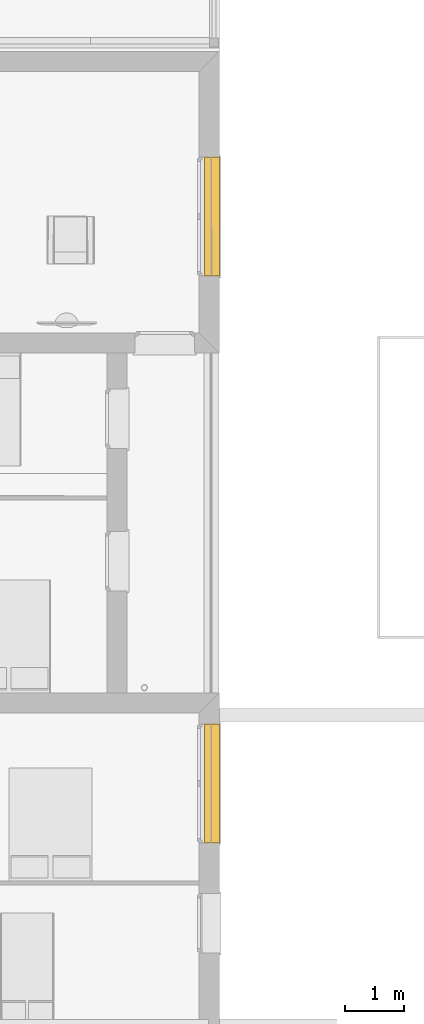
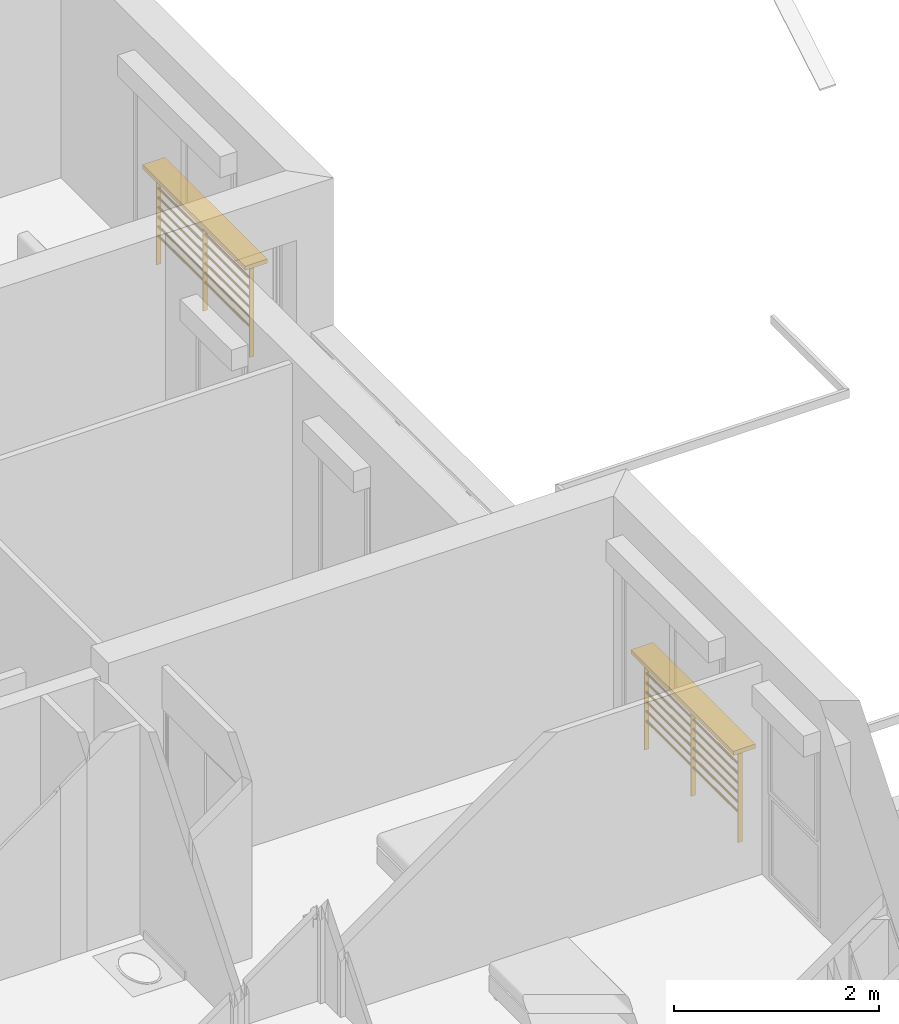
# One storey, part 118 of 171: 2 railings.
"""IFC2X3 building model written with IfcOpenShell, lengths in millimetres."""

from ifc_helpers import new_model, entity, si_unit, converted_unit, derived_unit, money_unit, direction, frame, origin_with_axes, place, context, subcontext, project, spatial, faceted_brep, source, transform, mapped, type_object, element, save


model = new_model("IFC2X3")

# Units and contexts
model_context = context("Model", 3, precision=0.01, world=origin_with_axes(), true_north=direction((0.0, 1.0)))
body_context = subcontext(model_context, "Body", "Model", "MODEL_VIEW")
ifc_project = project(units=[si_unit("LENGTHUNIT", "METRE", prefix="MILLI"), si_unit("AREAUNIT", "SQUARE_METRE"), si_unit("VOLUMEUNIT", "CUBIC_METRE"), converted_unit("PLANEANGLEUNIT", "DEGREE", entity("IfcPlaneAngleMeasure", 0.0174532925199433), si_unit("PLANEANGLEUNIT", "RADIAN"), dimensions=[0, 0, 0, 0, 0, 0, 0]), money_unit("USD"), converted_unit("TIMEUNIT", "Year", entity("IfcTimeMeasure", 31557600.0), si_unit("TIMEUNIT", "SECOND"), dimensions=[0, 0, 1, 0, 0, 0, 0]), si_unit("MASSUNIT", "GRAM", prefix="KILO"), si_unit("THERMODYNAMICTEMPERATUREUNIT", "DEGREE_CELSIUS"), si_unit("LUMINOUSINTENSITYUNIT", "LUMEN"), si_unit("ENERGYUNIT", "JOULE", prefix="MEGA"), derived_unit("THERMALCONDUCTANCEUNIT", [(si_unit("POWERUNIT", "WATT"), 1), (si_unit("LENGTHUNIT", "METRE"), -1), (si_unit("THERMODYNAMICTEMPERATUREUNIT", "KELVIN"), -1)]), derived_unit("SPECIFICHEATCAPACITYUNIT", [(si_unit("ENERGYUNIT", "JOULE"), 1), (si_unit("MASSUNIT", "GRAM", prefix="KILO"), -1), (si_unit("THERMODYNAMICTEMPERATUREUNIT", "KELVIN"), -1)]), derived_unit("MASSDENSITYUNIT", [(si_unit("MASSUNIT", "GRAM", prefix="KILO"), 1), (si_unit("VOLUMEUNIT", "CUBIC_METRE"), -1)])], contexts=[model_context])

# Site, building, storey
site_placement = place(None, origin_with_axes())
site = spatial("IfcSite", under=ifc_project, at=site_placement, Name="Site", CompositionType="ELEMENT")
building_placement = place(site_placement, origin_with_axes())
building = spatial("IfcBuilding", under=site, at=building_placement, Name="Bâtiment", CompositionType="ELEMENT")
storey_placement = place(building_placement, frame((0.0, 0.0, 3000.0), z_axis=(0.0, 0.0, 1.0), x_axis=(1.0, 0.0, 0.0)))
storey = spatial("IfcBuildingStorey", under=building, at=storey_placement, Name="rdc", CompositionType="ELEMENT", Elevation=3000.0)

# Railings
railing_type = type_object("IfcRailingType", Name="Cadre avec câble 01 20", PredefinedType="NOTDEFINED")
shared_shape = source(origin_with_axes(), body_context, "Body", "Brep", [
    faceted_brep([(0.0, 125.0, 950.0), (0.0, 125.0, 1000.0), (0.0, -125.0, 1000.0), (0.0, -125.0, 950.0), (-1999.999999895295, 125.0, 950.0), (-1999.999999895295, 125.0, 1000.0), (-1999.999999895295, -125.0, 1000.0), (-1999.999999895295, -125.0, 950.0)], [[[0, 1, 2, 3]], [[4, 5, 1, 0]], [[1, 5, 6, 2]], [[3, 2, 6, 7]], [[0, 3, 7, 4]], [[7, 6, 5, 4]]]),
    faceted_brep([(-84.99999999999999, -25.0, -176.0), (-84.99999999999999, -25.0, 950.0), (-95.0, -25.0, 950.0), (-95.0, -25.0, -176.0), (-84.99999999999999, 25.0, -176.0), (-84.99999999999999, 25.0, 950.0), (-95.0, 25.0, 950.0), (-95.0, 25.0, -176.0)], [[[0, 1, 2, 3]], [[4, 5, 1, 0]], [[1, 5, 6, 2]], [[3, 2, 6, 7]], [[0, 3, 7, 4]], [[7, 6, 5, 4]]]),
    faceted_brep([(-994.9999999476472, -25.0, -176.0), (-994.9999999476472, -25.0, 950.0), (-1004.999999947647, -25.0, 950.0), (-1004.999999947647, -25.0, -176.0), (-994.9999999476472, 25.0, -176.0), (-994.9999999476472, 25.0, 950.0), (-1004.999999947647, 25.0, 950.0), (-1004.999999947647, 25.0, -176.0)], [[[0, 1, 2, 3]], [[4, 5, 1, 0]], [[1, 5, 6, 2]], [[3, 2, 6, 7]], [[0, 3, 7, 4]], [[7, 6, 5, 4]]]),
    faceted_brep([(-1904.999999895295, -25.0, -176.0), (-1904.999999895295, -25.0, 950.0), (-1914.999999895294, -25.0, 950.0), (-1914.999999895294, -25.0, -176.0), (-1904.999999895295, 25.0, -176.0), (-1904.999999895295, 25.0, 950.0), (-1914.999999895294, 25.0, 950.0), (-1914.999999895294, 25.0, -176.0)], [[[0, 1, 2, 3]], [[4, 5, 1, 0]], [[1, 5, 6, 2]], [[3, 2, 6, 7]], [[0, 3, 7, 4]], [[7, 6, 5, 4]]]),
    faceted_brep([(-994.9999999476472, 10.82531754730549, 168.7500000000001), (-95.0, 10.82531754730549, 168.75), (-95.0, 12.5, 162.5), (-994.9999999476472, 12.5, 162.5000000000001), (-994.9999999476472, 6.250000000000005, 173.3253175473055), (-95.0, 6.250000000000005, 173.3253175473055), (-95.0, 0.0, 175.0), (-95.0, -6.249999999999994, 173.3253175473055), (-95.0, -10.82531754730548, 168.75), (-95.0, -12.5, 162.5), (-95.0, -10.82531754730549, 156.25), (-95.0, -6.250000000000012, 151.6746824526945), (-95.0, 0.0, 150.0), (-95.0, 6.249999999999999, 151.6746824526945), (-95.0, 10.82531754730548, 156.25), (-994.9999999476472, 10.82531754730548, 156.2500000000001), (-994.9999999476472, 6.249999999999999, 151.6746824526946), (-994.9999999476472, 0.0, 150.0000000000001), (-994.9999999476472, -6.250000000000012, 151.6746824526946), (-994.9999999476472, -10.82531754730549, 156.2500000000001), (-994.9999999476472, -12.5, 162.5000000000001), (-994.9999999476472, -10.82531754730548, 168.7500000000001), (-994.9999999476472, -6.249999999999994, 173.3253175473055), (-994.9999999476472, 0.0, 175.0000000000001)], [[[0, 1, 2, 3]], [[4, 5, 1, 0]], [[1, 5, 6, 7, 8, 9, 10, 11, 12, 13, 14, 2]], [[3, 2, 14, 15]], [[15, 16, 17, 18, 19, 20, 21, 22, 23, 4, 0, 3]], [[23, 6, 5, 4]], [[22, 7, 6, 23]], [[21, 8, 7, 22]], [[20, 9, 8, 21]], [[19, 10, 9, 20]], [[18, 11, 10, 19]], [[17, 12, 11, 18]], [[16, 13, 12, 17]], [[15, 14, 13, 16]]]),
    faceted_brep([(-1004.999999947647, 10.82531754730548, 156.2500000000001), (-1904.999999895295, 10.82531754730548, 156.2500000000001), (-1904.999999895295, 12.5, 162.5000000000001), (-1004.999999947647, 12.5, 162.5000000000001), (-1004.999999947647, 6.249999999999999, 151.6746824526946), (-1904.999999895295, 6.249999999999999, 151.6746824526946), (-1904.999999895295, 0.0, 150.0000000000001), (-1904.999999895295, -6.250000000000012, 151.6746824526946), (-1904.999999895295, -10.82531754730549, 156.2500000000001), (-1904.999999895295, -12.5, 162.5000000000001), (-1904.999999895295, -10.82531754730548, 168.7500000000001), (-1904.999999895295, -6.249999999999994, 173.3253175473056), (-1904.999999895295, 0.0, 175.0000000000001), (-1904.999999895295, 6.250000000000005, 173.3253175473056), (-1904.999999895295, 10.82531754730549, 168.7500000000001), (-1004.999999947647, 10.82531754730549, 168.7500000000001), (-1004.999999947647, 6.250000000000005, 173.3253175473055), (-1004.999999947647, 0.0, 175.0000000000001), (-1004.999999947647, -6.249999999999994, 173.3253175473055), (-1004.999999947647, -10.82531754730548, 168.7500000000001), (-1004.999999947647, -12.5, 162.5000000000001), (-1004.999999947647, -10.82531754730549, 156.2500000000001), (-1004.999999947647, -6.250000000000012, 151.6746824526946), (-1004.999999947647, 0.0, 150.0000000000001)], [[[0, 1, 2, 3]], [[4, 5, 1, 0]], [[1, 5, 6, 7, 8, 9, 10, 11, 12, 13, 14, 2]], [[3, 2, 14, 15]], [[15, 16, 17, 18, 19, 20, 21, 22, 23, 4, 0, 3]], [[23, 6, 5, 4]], [[22, 7, 6, 23]], [[21, 8, 7, 22]], [[20, 9, 8, 21]], [[19, 10, 9, 20]], [[18, 11, 10, 19]], [[17, 12, 11, 18]], [[16, 13, 12, 17]], [[15, 14, 13, 16]]]),
    faceted_brep([(-994.9999999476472, 10.82531754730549, 283.0357142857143), (-95.0, 10.82531754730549, 283.0357142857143), (-95.0, 12.5, 276.7857142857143), (-994.9999999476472, 12.5, 276.7857142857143), (-994.9999999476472, 6.250000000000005, 287.6110318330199), (-95.0, 6.250000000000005, 287.6110318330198), (-95.0, 0.0, 289.2857142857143), (-95.0, -6.249999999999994, 287.6110318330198), (-95.0, -10.82531754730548, 283.0357142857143), (-95.0, -12.5, 276.7857142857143), (-95.0, -10.82531754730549, 270.5357142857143), (-95.0, -6.250000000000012, 265.9603967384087), (-95.0, 0.0, 264.2857142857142), (-95.0, 6.249999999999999, 265.9603967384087), (-95.0, 10.82531754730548, 270.5357142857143), (-994.9999999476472, 10.82531754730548, 270.5357142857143), (-994.9999999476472, 6.249999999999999, 265.9603967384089), (-994.9999999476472, 0.0, 264.2857142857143), (-994.9999999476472, -6.250000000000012, 265.9603967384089), (-994.9999999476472, -10.82531754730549, 270.5357142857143), (-994.9999999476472, -12.5, 276.7857142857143), (-994.9999999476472, -10.82531754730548, 283.0357142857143), (-994.9999999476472, -6.249999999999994, 287.6110318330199), (-994.9999999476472, 0.0, 289.2857142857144)], [[[0, 1, 2, 3]], [[4, 5, 1, 0]], [[1, 5, 6, 7, 8, 9, 10, 11, 12, 13, 14, 2]], [[3, 2, 14, 15]], [[15, 16, 17, 18, 19, 20, 21, 22, 23, 4, 0, 3]], [[23, 6, 5, 4]], [[22, 7, 6, 23]], [[21, 8, 7, 22]], [[20, 9, 8, 21]], [[19, 10, 9, 20]], [[18, 11, 10, 19]], [[17, 12, 11, 18]], [[16, 13, 12, 17]], [[15, 14, 13, 16]]]),
    faceted_brep([(-1004.999999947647, 10.82531754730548, 270.5357142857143), (-1904.999999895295, 10.82531754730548, 270.5357142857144), (-1904.999999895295, 12.5, 276.7857142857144), (-1004.999999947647, 12.5, 276.7857142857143), (-1004.999999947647, 6.249999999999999, 265.9603967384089), (-1904.999999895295, 6.249999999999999, 265.9603967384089), (-1904.999999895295, 0.0, 264.2857142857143), (-1904.999999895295, -6.250000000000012, 265.9603967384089), (-1904.999999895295, -10.82531754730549, 270.5357142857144), (-1904.999999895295, -12.5, 276.7857142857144), (-1904.999999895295, -10.82531754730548, 283.0357142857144), (-1904.999999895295, -6.249999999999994, 287.6110318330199), (-1904.999999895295, 0.0, 289.2857142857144), (-1904.999999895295, 6.250000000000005, 287.6110318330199), (-1904.999999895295, 10.82531754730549, 283.0357142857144), (-1004.999999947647, 10.82531754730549, 283.0357142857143), (-1004.999999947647, 6.250000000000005, 287.6110318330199), (-1004.999999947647, 0.0, 289.2857142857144), (-1004.999999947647, -6.249999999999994, 287.6110318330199), (-1004.999999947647, -10.82531754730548, 283.0357142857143), (-1004.999999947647, -12.5, 276.7857142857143), (-1004.999999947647, -10.82531754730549, 270.5357142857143), (-1004.999999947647, -6.250000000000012, 265.9603967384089), (-1004.999999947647, 0.0, 264.2857142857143)], [[[0, 1, 2, 3]], [[4, 5, 1, 0]], [[1, 5, 6, 7, 8, 9, 10, 11, 12, 13, 14, 2]], [[3, 2, 14, 15]], [[15, 16, 17, 18, 19, 20, 21, 22, 23, 4, 0, 3]], [[23, 6, 5, 4]], [[22, 7, 6, 23]], [[21, 8, 7, 22]], [[20, 9, 8, 21]], [[19, 10, 9, 20]], [[18, 11, 10, 19]], [[17, 12, 11, 18]], [[16, 13, 12, 17]], [[15, 14, 13, 16]]]),
    faceted_brep([(-994.9999999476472, 10.82531754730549, 397.3214285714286), (-95.0, 10.82531754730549, 397.3214285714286), (-95.0, 12.5, 391.0714285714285), (-994.9999999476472, 12.5, 391.0714285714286), (-994.9999999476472, 6.250000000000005, 401.896746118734), (-95.0, 6.250000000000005, 401.896746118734), (-95.0, 0.0, 403.5714285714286), (-95.0, -6.249999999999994, 401.896746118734), (-95.0, -10.82531754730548, 397.3214285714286), (-95.0, -12.5, 391.0714285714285), (-95.0, -10.82531754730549, 384.8214285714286), (-95.0, -6.250000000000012, 380.2461110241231), (-95.0, 0.0, 378.5714285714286), (-95.0, 6.249999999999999, 380.2461110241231), (-95.0, 10.82531754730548, 384.8214285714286), (-994.9999999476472, 10.82531754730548, 384.8214285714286), (-994.9999999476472, 6.249999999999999, 380.2461110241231), (-994.9999999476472, 0.0, 378.5714285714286), (-994.9999999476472, -6.250000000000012, 380.2461110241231), (-994.9999999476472, -10.82531754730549, 384.8214285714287), (-994.9999999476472, -12.5, 391.0714285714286), (-994.9999999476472, -10.82531754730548, 397.3214285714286), (-994.9999999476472, -6.249999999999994, 401.896746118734), (-994.9999999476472, 0.0, 403.5714285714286)], [[[0, 1, 2, 3]], [[4, 5, 1, 0]], [[1, 5, 6, 7, 8, 9, 10, 11, 12, 13, 14, 2]], [[3, 2, 14, 15]], [[15, 16, 17, 18, 19, 20, 21, 22, 23, 4, 0, 3]], [[23, 6, 5, 4]], [[22, 7, 6, 23]], [[21, 8, 7, 22]], [[20, 9, 8, 21]], [[19, 10, 9, 20]], [[18, 11, 10, 19]], [[17, 12, 11, 18]], [[16, 13, 12, 17]], [[15, 14, 13, 16]]]),
    faceted_brep([(-1004.999999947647, 10.82531754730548, 384.8214285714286), (-1904.999999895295, 10.82531754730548, 384.8214285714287), (-1904.999999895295, 12.5, 391.0714285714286), (-1004.999999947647, 12.5, 391.0714285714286), (-1004.999999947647, 6.249999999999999, 380.2461110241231), (-1904.999999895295, 6.249999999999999, 380.2461110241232), (-1904.999999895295, 0.0, 378.5714285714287), (-1904.999999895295, -6.250000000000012, 380.2461110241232), (-1904.999999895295, -10.82531754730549, 384.8214285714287), (-1904.999999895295, -12.5, 391.0714285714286), (-1904.999999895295, -10.82531754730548, 397.3214285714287), (-1904.999999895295, -6.249999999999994, 401.8967461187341), (-1904.999999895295, 0.0, 403.5714285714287), (-1904.999999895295, 6.250000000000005, 401.8967461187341), (-1904.999999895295, 10.82531754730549, 397.3214285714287), (-1004.999999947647, 10.82531754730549, 397.3214285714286), (-1004.999999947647, 6.250000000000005, 401.896746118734), (-1004.999999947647, 0.0, 403.5714285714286), (-1004.999999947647, -6.249999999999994, 401.896746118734), (-1004.999999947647, -10.82531754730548, 397.3214285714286), (-1004.999999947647, -12.5, 391.0714285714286), (-1004.999999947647, -10.82531754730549, 384.8214285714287), (-1004.999999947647, -6.250000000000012, 380.2461110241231), (-1004.999999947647, 0.0, 378.5714285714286)], [[[0, 1, 2, 3]], [[4, 5, 1, 0]], [[1, 5, 6, 7, 8, 9, 10, 11, 12, 13, 14, 2]], [[3, 2, 14, 15]], [[15, 16, 17, 18, 19, 20, 21, 22, 23, 4, 0, 3]], [[23, 6, 5, 4]], [[22, 7, 6, 23]], [[21, 8, 7, 22]], [[20, 9, 8, 21]], [[19, 10, 9, 20]], [[18, 11, 10, 19]], [[17, 12, 11, 18]], [[16, 13, 12, 17]], [[15, 14, 13, 16]]]),
    faceted_brep([(-994.9999999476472, 10.82531754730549, 511.6071428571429), (-95.0, 10.82531754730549, 511.6071428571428), (-95.0, 12.5, 505.3571428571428), (-994.9999999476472, 12.5, 505.3571428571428), (-994.9999999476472, 6.250000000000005, 516.1824604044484), (-95.0, 6.250000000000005, 516.1824604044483), (-95.0, 0.0, 517.8571428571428), (-95.0, -6.249999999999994, 516.1824604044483), (-95.0, -10.82531754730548, 511.6071428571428), (-95.0, -12.5, 505.3571428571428), (-95.0, -10.82531754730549, 499.1071428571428), (-95.0, -6.250000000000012, 494.5318253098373), (-95.0, 0.0, 492.8571428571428), (-95.0, 6.249999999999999, 494.5318253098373), (-95.0, 10.82531754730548, 499.1071428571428), (-994.9999999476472, 10.82531754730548, 499.1071428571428), (-994.9999999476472, 6.249999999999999, 494.5318253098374), (-994.9999999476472, 0.0, 492.8571428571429), (-994.9999999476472, -6.250000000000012, 494.5318253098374), (-994.9999999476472, -10.82531754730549, 499.1071428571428), (-994.9999999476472, -12.5, 505.3571428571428), (-994.9999999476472, -10.82531754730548, 511.6071428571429), (-994.9999999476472, -6.249999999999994, 516.1824604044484), (-994.9999999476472, 0.0, 517.8571428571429)], [[[0, 1, 2, 3]], [[4, 5, 1, 0]], [[1, 5, 6, 7, 8, 9, 10, 11, 12, 13, 14, 2]], [[3, 2, 14, 15]], [[15, 16, 17, 18, 19, 20, 21, 22, 23, 4, 0, 3]], [[23, 6, 5, 4]], [[22, 7, 6, 23]], [[21, 8, 7, 22]], [[20, 9, 8, 21]], [[19, 10, 9, 20]], [[18, 11, 10, 19]], [[17, 12, 11, 18]], [[16, 13, 12, 17]], [[15, 14, 13, 16]]]),
    faceted_brep([(-1004.999999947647, 10.82531754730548, 499.1071428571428), (-1904.999999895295, 10.82531754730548, 499.1071428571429), (-1904.999999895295, 12.5, 505.3571428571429), (-1004.999999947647, 12.5, 505.3571428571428), (-1004.999999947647, 6.249999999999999, 494.5318253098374), (-1904.999999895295, 6.249999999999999, 494.5318253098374), (-1904.999999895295, 0.0, 492.8571428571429), (-1904.999999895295, -6.250000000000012, 494.5318253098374), (-1904.999999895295, -10.82531754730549, 499.1071428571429), (-1904.999999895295, -12.5, 505.3571428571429), (-1904.999999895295, -10.82531754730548, 511.6071428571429), (-1904.999999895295, -6.249999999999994, 516.1824604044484), (-1904.999999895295, 0.0, 517.8571428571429), (-1904.999999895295, 6.250000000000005, 516.1824604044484), (-1904.999999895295, 10.82531754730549, 511.6071428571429), (-1004.999999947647, 10.82531754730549, 511.6071428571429), (-1004.999999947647, 6.250000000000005, 516.1824604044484), (-1004.999999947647, 0.0, 517.8571428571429), (-1004.999999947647, -6.249999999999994, 516.1824604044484), (-1004.999999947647, -10.82531754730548, 511.6071428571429), (-1004.999999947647, -12.5, 505.3571428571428), (-1004.999999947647, -10.82531754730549, 499.1071428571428), (-1004.999999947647, -6.250000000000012, 494.5318253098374), (-1004.999999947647, 0.0, 492.8571428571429)], [[[0, 1, 2, 3]], [[4, 5, 1, 0]], [[1, 5, 6, 7, 8, 9, 10, 11, 12, 13, 14, 2]], [[3, 2, 14, 15]], [[15, 16, 17, 18, 19, 20, 21, 22, 23, 4, 0, 3]], [[23, 6, 5, 4]], [[22, 7, 6, 23]], [[21, 8, 7, 22]], [[20, 9, 8, 21]], [[19, 10, 9, 20]], [[18, 11, 10, 19]], [[17, 12, 11, 18]], [[16, 13, 12, 17]], [[15, 14, 13, 16]]]),
    faceted_brep([(-994.9999999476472, 10.82531754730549, 625.8928571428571), (-95.0, 10.82531754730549, 625.892857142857), (-95.0, 12.5, 619.642857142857), (-994.9999999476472, 12.5, 619.6428571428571), (-994.9999999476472, 6.250000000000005, 630.4681746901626), (-95.0, 6.250000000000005, 630.4681746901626), (-95.0, 0.0, 632.1428571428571), (-95.0, -6.249999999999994, 630.4681746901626), (-95.0, -10.82531754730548, 625.892857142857), (-95.0, -12.5, 619.642857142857), (-95.0, -10.82531754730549, 613.3928571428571), (-95.0, -6.250000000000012, 608.8175395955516), (-95.0, 0.0, 607.1428571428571), (-95.0, 6.249999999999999, 608.8175395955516), (-95.0, 10.82531754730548, 613.3928571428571), (-994.9999999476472, 10.82531754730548, 613.3928571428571), (-994.9999999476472, 6.249999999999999, 608.8175395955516), (-994.9999999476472, 0.0, 607.1428571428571), (-994.9999999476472, -6.250000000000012, 608.8175395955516), (-994.9999999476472, -10.82531754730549, 613.3928571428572), (-994.9999999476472, -12.5, 619.6428571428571), (-994.9999999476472, -10.82531754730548, 625.8928571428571), (-994.9999999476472, -6.249999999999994, 630.4681746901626), (-994.9999999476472, 0.0, 632.1428571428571)], [[[0, 1, 2, 3]], [[4, 5, 1, 0]], [[1, 5, 6, 7, 8, 9, 10, 11, 12, 13, 14, 2]], [[3, 2, 14, 15]], [[15, 16, 17, 18, 19, 20, 21, 22, 23, 4, 0, 3]], [[23, 6, 5, 4]], [[22, 7, 6, 23]], [[21, 8, 7, 22]], [[20, 9, 8, 21]], [[19, 10, 9, 20]], [[18, 11, 10, 19]], [[17, 12, 11, 18]], [[16, 13, 12, 17]], [[15, 14, 13, 16]]]),
    faceted_brep([(-1004.999999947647, 10.82531754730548, 613.3928571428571), (-1904.999999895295, 10.82531754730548, 613.3928571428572), (-1904.999999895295, 12.5, 619.6428571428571), (-1004.999999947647, 12.5, 619.6428571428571), (-1004.999999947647, 6.249999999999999, 608.8175395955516), (-1904.999999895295, 6.249999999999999, 608.8175395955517), (-1904.999999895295, 0.0, 607.1428571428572), (-1904.999999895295, -6.250000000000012, 608.8175395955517), (-1904.999999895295, -10.82531754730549, 613.3928571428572), (-1904.999999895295, -12.5, 619.6428571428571), (-1904.999999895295, -10.82531754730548, 625.8928571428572), (-1904.999999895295, -6.249999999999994, 630.4681746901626), (-1904.999999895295, 0.0, 632.1428571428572), (-1904.999999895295, 6.250000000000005, 630.4681746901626), (-1904.999999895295, 10.82531754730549, 625.8928571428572), (-1004.999999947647, 10.82531754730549, 625.8928571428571), (-1004.999999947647, 6.250000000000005, 630.4681746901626), (-1004.999999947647, 0.0, 632.1428571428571), (-1004.999999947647, -6.249999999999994, 630.4681746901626), (-1004.999999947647, -10.82531754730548, 625.8928571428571), (-1004.999999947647, -12.5, 619.6428571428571), (-1004.999999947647, -10.82531754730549, 613.3928571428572), (-1004.999999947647, -6.250000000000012, 608.8175395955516), (-1004.999999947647, 0.0, 607.1428571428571)], [[[0, 1, 2, 3]], [[4, 5, 1, 0]], [[1, 5, 6, 7, 8, 9, 10, 11, 12, 13, 14, 2]], [[3, 2, 14, 15]], [[15, 16, 17, 18, 19, 20, 21, 22, 23, 4, 0, 3]], [[23, 6, 5, 4]], [[22, 7, 6, 23]], [[21, 8, 7, 22]], [[20, 9, 8, 21]], [[19, 10, 9, 20]], [[18, 11, 10, 19]], [[17, 12, 11, 18]], [[16, 13, 12, 17]], [[15, 14, 13, 16]]]),
    faceted_brep([(-994.9999999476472, 10.82531754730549, 740.1785714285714), (-95.0, 10.82531754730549, 740.1785714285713), (-95.0, 12.5, 733.9285714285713), (-994.9999999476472, 12.5, 733.9285714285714), (-994.9999999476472, 6.250000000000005, 744.7538889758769), (-95.0, 6.250000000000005, 744.7538889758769), (-95.0, 0.0, 746.4285714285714), (-95.0, -6.249999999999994, 744.7538889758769), (-95.0, -10.82531754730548, 740.1785714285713), (-95.0, -12.5, 733.9285714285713), (-95.0, -10.82531754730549, 727.6785714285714), (-95.0, -6.250000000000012, 723.1032538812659), (-95.0, 0.0, 721.4285714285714), (-95.0, 6.249999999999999, 723.1032538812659), (-95.0, 10.82531754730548, 727.6785714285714), (-994.9999999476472, 10.82531754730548, 727.6785714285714), (-994.9999999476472, 6.249999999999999, 723.1032538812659), (-994.9999999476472, 0.0, 721.4285714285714), (-994.9999999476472, -6.250000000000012, 723.1032538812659), (-994.9999999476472, -10.82531754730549, 727.6785714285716), (-994.9999999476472, -12.5, 733.9285714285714), (-994.9999999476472, -10.82531754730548, 740.1785714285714), (-994.9999999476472, -6.249999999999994, 744.7538889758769), (-994.9999999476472, 0.0, 746.4285714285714)], [[[0, 1, 2, 3]], [[4, 5, 1, 0]], [[1, 5, 6, 7, 8, 9, 10, 11, 12, 13, 14, 2]], [[3, 2, 14, 15]], [[15, 16, 17, 18, 19, 20, 21, 22, 23, 4, 0, 3]], [[23, 6, 5, 4]], [[22, 7, 6, 23]], [[21, 8, 7, 22]], [[20, 9, 8, 21]], [[19, 10, 9, 20]], [[18, 11, 10, 19]], [[17, 12, 11, 18]], [[16, 13, 12, 17]], [[15, 14, 13, 16]]]),
    faceted_brep([(-1004.999999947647, 10.82531754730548, 727.6785714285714), (-1904.999999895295, 10.82531754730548, 727.6785714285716), (-1904.999999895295, 12.5, 733.9285714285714), (-1004.999999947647, 12.5, 733.9285714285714), (-1004.999999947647, 6.249999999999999, 723.1032538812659), (-1904.999999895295, 6.249999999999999, 723.103253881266), (-1904.999999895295, 0.0, 721.4285714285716), (-1904.999999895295, -6.250000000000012, 723.103253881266), (-1904.999999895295, -10.82531754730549, 727.6785714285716), (-1904.999999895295, -12.5, 733.9285714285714), (-1904.999999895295, -10.82531754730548, 740.1785714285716), (-1904.999999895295, -6.249999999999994, 744.753888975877), (-1904.999999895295, 0.0, 746.4285714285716), (-1904.999999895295, 6.250000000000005, 744.753888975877), (-1904.999999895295, 10.82531754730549, 740.1785714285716), (-1004.999999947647, 10.82531754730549, 740.1785714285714), (-1004.999999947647, 6.250000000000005, 744.7538889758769), (-1004.999999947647, 0.0, 746.4285714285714), (-1004.999999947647, -6.249999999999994, 744.7538889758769), (-1004.999999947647, -10.82531754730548, 740.1785714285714), (-1004.999999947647, -12.5, 733.9285714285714), (-1004.999999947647, -10.82531754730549, 727.6785714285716), (-1004.999999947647, -6.250000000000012, 723.1032538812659), (-1004.999999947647, 0.0, 721.4285714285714)], [[[0, 1, 2, 3]], [[4, 5, 1, 0]], [[1, 5, 6, 7, 8, 9, 10, 11, 12, 13, 14, 2]], [[3, 2, 14, 15]], [[15, 16, 17, 18, 19, 20, 21, 22, 23, 4, 0, 3]], [[23, 6, 5, 4]], [[22, 7, 6, 23]], [[21, 8, 7, 22]], [[20, 9, 8, 21]], [[19, 10, 9, 20]], [[18, 11, 10, 19]], [[17, 12, 11, 18]], [[16, 13, 12, 17]], [[15, 14, 13, 16]]]),
    faceted_brep([(-994.9999999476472, 10.82531754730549, 854.4642857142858), (-95.0, 10.82531754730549, 854.4642857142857), (-95.0, 12.5, 848.2142857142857), (-994.9999999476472, 12.5, 848.2142857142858), (-994.9999999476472, 6.250000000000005, 859.0396032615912), (-95.0, 6.250000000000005, 859.0396032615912), (-95.0, 0.0, 860.7142857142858), (-95.0, -6.249999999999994, 859.0396032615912), (-95.0, -10.82531754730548, 854.4642857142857), (-95.0, -12.5, 848.2142857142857), (-95.0, -10.82531754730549, 841.9642857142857), (-95.0, -6.250000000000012, 837.3889681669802), (-95.0, 0.0, 835.7142857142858), (-95.0, 6.249999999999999, 837.3889681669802), (-95.0, 10.82531754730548, 841.9642857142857), (-994.9999999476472, 10.82531754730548, 841.9642857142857), (-994.9999999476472, 6.249999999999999, 837.3889681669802), (-994.9999999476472, 0.0, 835.7142857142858), (-994.9999999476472, -6.250000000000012, 837.3889681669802), (-994.9999999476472, -10.82531754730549, 841.9642857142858), (-994.9999999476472, -12.5, 848.2142857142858), (-994.9999999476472, -10.82531754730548, 854.4642857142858), (-994.9999999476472, -6.249999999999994, 859.0396032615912), (-994.9999999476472, 0.0, 860.7142857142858)], [[[0, 1, 2, 3]], [[4, 5, 1, 0]], [[1, 5, 6, 7, 8, 9, 10, 11, 12, 13, 14, 2]], [[3, 2, 14, 15]], [[15, 16, 17, 18, 19, 20, 21, 22, 23, 4, 0, 3]], [[23, 6, 5, 4]], [[22, 7, 6, 23]], [[21, 8, 7, 22]], [[20, 9, 8, 21]], [[19, 10, 9, 20]], [[18, 11, 10, 19]], [[17, 12, 11, 18]], [[16, 13, 12, 17]], [[15, 14, 13, 16]]]),
    faceted_brep([(-1004.999999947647, 10.82531754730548, 841.9642857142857), (-1904.999999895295, 10.82531754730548, 841.9642857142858), (-1904.999999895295, 12.5, 848.2142857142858), (-1004.999999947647, 12.5, 848.2142857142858), (-1004.999999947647, 6.249999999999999, 837.3889681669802), (-1904.999999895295, 6.249999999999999, 837.3889681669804), (-1904.999999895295, 0.0, 835.7142857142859), (-1904.999999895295, -6.250000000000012, 837.3889681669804), (-1904.999999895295, -10.82531754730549, 841.9642857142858), (-1904.999999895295, -12.5, 848.2142857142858), (-1904.999999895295, -10.82531754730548, 854.4642857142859), (-1904.999999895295, -6.249999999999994, 859.0396032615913), (-1904.999999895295, 0.0, 860.7142857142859), (-1904.999999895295, 6.250000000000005, 859.0396032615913), (-1904.999999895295, 10.82531754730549, 854.4642857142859), (-1004.999999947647, 10.82531754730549, 854.4642857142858), (-1004.999999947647, 6.250000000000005, 859.0396032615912), (-1004.999999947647, 0.0, 860.7142857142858), (-1004.999999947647, -6.249999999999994, 859.0396032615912), (-1004.999999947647, -10.82531754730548, 854.4642857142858), (-1004.999999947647, -12.5, 848.2142857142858), (-1004.999999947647, -10.82531754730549, 841.9642857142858), (-1004.999999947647, -6.250000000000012, 837.3889681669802), (-1004.999999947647, 0.0, 835.7142857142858)], [[[0, 1, 2, 3]], [[4, 5, 1, 0]], [[1, 5, 6, 7, 8, 9, 10, 11, 12, 13, 14, 2]], [[3, 2, 14, 15]], [[15, 16, 17, 18, 19, 20, 21, 22, 23, 4, 0, 3]], [[23, 6, 5, 4]], [[22, 7, 6, 23]], [[21, 8, 7, 22]], [[20, 9, 8, 21]], [[19, 10, 9, 20]], [[18, 11, 10, 19]], [[17, 12, 11, 18]], [[16, 13, 12, 17]], [[15, 14, 13, 16]]]),
])
for number, where, z_axis, x_axis, name in (
    (1, (2234233.265940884, -639732.7038050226, 0.0), (0.0, 0.0, 1.0), (0.0007973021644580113, -0.9999996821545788, 0.0), "Obj.-002"),
    (2, (2234231.64134472, -649260.1368958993, 0.0), (0.0, 0.0, 1.0), (0.0, -1.0, 0.0), "Obj.-002"),
):
    element("IfcRailing", number, at=place(storey_placement, frame(where, z_axis=z_axis, x_axis=x_axis)), inside=storey, type_object=railing_type, Name=name, PredefinedType="NOTDEFINED", context=body_context, shape_type="MappedRepresentation", body=[
        mapped(shared_shape, transform((0.0, 0.0, 0.0))),
    ])

save(model, "model.ifc")
